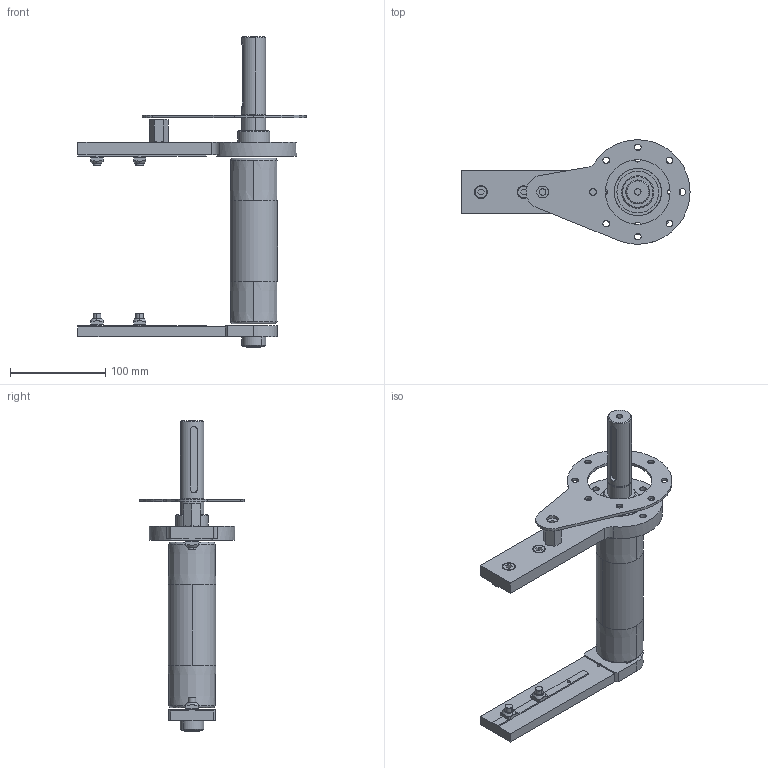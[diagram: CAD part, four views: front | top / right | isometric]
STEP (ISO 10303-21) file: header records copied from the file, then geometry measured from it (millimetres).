
FILE_DESCRIPTION (( 'STEP AP203' ), '1' );
FILE_NAME ('084.050.KD.49.150.STEP', '2015-07-03T14:13:09', ( '' ), ( '' ), 'SwSTEP 2.0', 'SolidWorks 2012', '' );
FILE_SCHEMA (( 'CONFIG_CONTROL_DESIGN' ));
Length unit declared in the file: millimetre
Products named in the file (1): 084.050.KD.49.150
Bounding box: 240 x 110 x 327 mm (x, y, z)
Surface area: 131916.9 mm2 (no closed solid volume)
Topology: 0 solids, 27 shells, 286 faces, 869 edges, 606 vertices
Faces by surface type: plane 139, cylinder 103, cone 20, torus 20, sphere 4
Entity records: 10372 total; most frequent: CARTESIAN_POINT 2304, DIRECTION 1783, ORIENTED_EDGE 1476, EDGE_CURVE 859, AXIS2_PLACEMENT_3D 681, VERTEX_POINT 600, VECTOR 421, LINE 421
